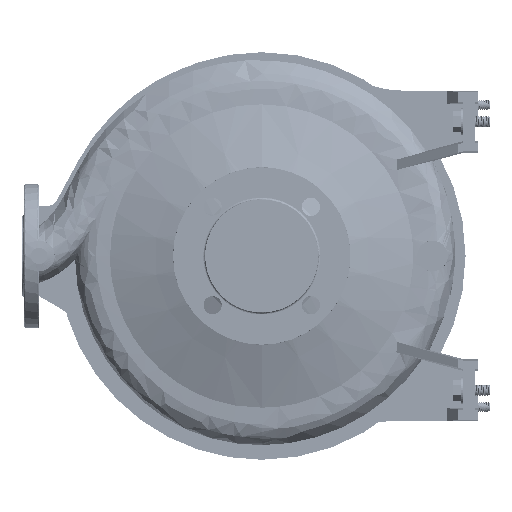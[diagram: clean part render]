
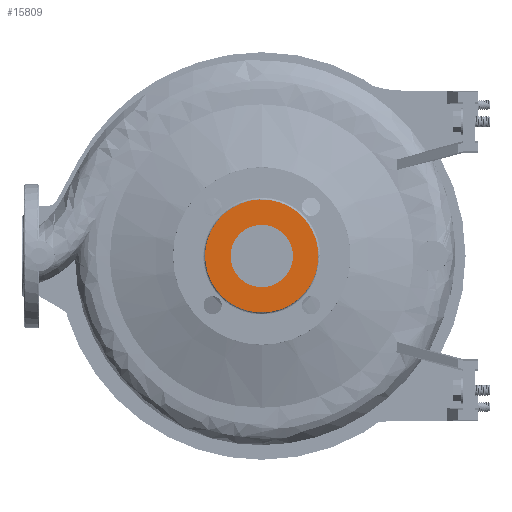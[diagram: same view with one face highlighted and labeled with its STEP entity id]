
A CAD part, left-side view. The second image highlights one B-rep face of the part: STEP entity #15809.
In plain terms, the highlighted planar face has unit normal (-1, 0, 0).
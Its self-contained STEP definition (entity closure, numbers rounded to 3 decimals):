
#1141 = CARTESIAN_POINT ( 'NONE',  ( -125., -59., 0. ) ) ;
#4424 =( BOUNDED_CURVE ( )  B_SPLINE_CURVE ( 3, ( #1141, #139696, #150668, #14735 ),
 .UNSPECIFIED., .F., .F. ) 
 B_SPLINE_CURVE_WITH_KNOTS ( ( 4, 4 ),
 ( 0., 0.186 ),
 .UNSPECIFIED. ) 
 CURVE ( )  GEOMETRIC_REPRESENTATION_ITEM ( )  RATIONAL_B_SPLINE_CURVE ( ( 0.957, 0.319, 0.319, 0.957 ) ) 
 REPRESENTATION_ITEM ( '' )  );
#14735 = CARTESIAN_POINT ( 'NONE',  ( -125., 59., 0. ) ) ;
#15809 = ADVANCED_FACE ( 'NONE', ( #118418, #170198 ), #46078, .T. ) ;
#17345 = EDGE_CURVE ( 'NONE', #49607, #45958, #73471, .T. ) ;
#21699 = CARTESIAN_POINT ( 'NONE',  ( -125., 0., 32.5 ) ) ;
#35352 = VERTEX_POINT ( 'NONE', #78106 ) ;
#45848 = EDGE_LOOP ( 'NONE', ( #126929, #130074 ) ) ;
#45958 = VERTEX_POINT ( 'NONE', #152306 ) ;
#46078 = PLANE ( 'NONE',  #53032 ) ;
#46818 = EDGE_LOOP ( 'NONE', ( #150771, #145473 ) ) ;
#49607 = VERTEX_POINT ( 'NONE', #21699 ) ;
#53032 = AXIS2_PLACEMENT_3D ( 'NONE', #101291, #74111, #156579 ) ;
#61981 = EDGE_CURVE ( 'NONE', #45958, #49607, #143977, .T. ) ;
#62931 = AXIS2_PLACEMENT_3D ( 'NONE', #106533, #174522, #148197 ) ;
#66464 = CARTESIAN_POINT ( 'NONE',  ( -125., 59., 0. ) ) ;
#73471 = CIRCLE ( 'NONE', #163210, 32.5 ) ;
#74111 = DIRECTION ( 'NONE',  ( -1., 0., 0. ) ) ;
#75595 = EDGE_CURVE ( 'NONE', #162975, #35352, #4424, .T. ) ;
#78106 = CARTESIAN_POINT ( 'NONE',  ( -125., 59., 0. ) ) ;
#83634 = CARTESIAN_POINT ( 'NONE',  ( -125., -59., -118. ) ) ;
#93970 = CARTESIAN_POINT ( 'NONE',  ( -125., 0., 0. ) ) ;
#96283 = CARTESIAN_POINT ( 'NONE',  ( -125., 59., -118. ) ) ;
#98295 =( BOUNDED_CURVE ( )  B_SPLINE_CURVE ( 3, ( #66464, #96283, #83634, #151574 ),
 .UNSPECIFIED., .F., .T. ) 
 B_SPLINE_CURVE_WITH_KNOTS ( ( 4, 4 ),
 ( 0., 0.186 ),
 .UNSPECIFIED. ) 
 CURVE ( )  GEOMETRIC_REPRESENTATION_ITEM ( )  RATIONAL_B_SPLINE_CURVE ( ( 0.957, 0.319, 0.319, 0.957 ) ) 
 REPRESENTATION_ITEM ( '' )  );
#101291 = CARTESIAN_POINT ( 'NONE',  ( -125., 59.708, -59.708 ) ) ;
#105783 = DIRECTION ( 'NONE',  ( 0., 0., 1. ) ) ;
#106533 = CARTESIAN_POINT ( 'NONE',  ( -125., 0., 0. ) ) ;
#118418 = FACE_BOUND ( 'NONE', #45848, .T. ) ;
#126929 = ORIENTED_EDGE ( 'NONE', *, *, #17345, .T. ) ;
#130074 = ORIENTED_EDGE ( 'NONE', *, *, #61981, .T. ) ;
#134748 = DIRECTION ( 'NONE',  ( 1., 0., 0. ) ) ;
#139696 = CARTESIAN_POINT ( 'NONE',  ( -125., -59., 118. ) ) ;
#141208 = CARTESIAN_POINT ( 'NONE',  ( -125., -59., 0. ) ) ;
#143977 = CIRCLE ( 'NONE', #62931, 32.5 ) ;
#145473 = ORIENTED_EDGE ( 'NONE', *, *, #168516, .T. ) ;
#148197 = DIRECTION ( 'NONE',  ( 0., 0., 1. ) ) ;
#150668 = CARTESIAN_POINT ( 'NONE',  ( -125., 59., 118. ) ) ;
#150771 = ORIENTED_EDGE ( 'NONE', *, *, #75595, .T. ) ;
#151574 = CARTESIAN_POINT ( 'NONE',  ( -125., -59., 0. ) ) ;
#152306 = CARTESIAN_POINT ( 'NONE',  ( -125., 0., -32.5 ) ) ;
#156579 = DIRECTION ( 'NONE',  ( 0., -1., 0. ) ) ;
#162975 = VERTEX_POINT ( 'NONE', #141208 ) ;
#163210 = AXIS2_PLACEMENT_3D ( 'NONE', #93970, #134748, #105783 ) ;
#168516 = EDGE_CURVE ( 'NONE', #35352, #162975, #98295, .T. ) ;
#170198 = FACE_OUTER_BOUND ( 'NONE', #46818, .T. ) ;
#174522 = DIRECTION ( 'NONE',  ( 1., 0., 0. ) ) ;
